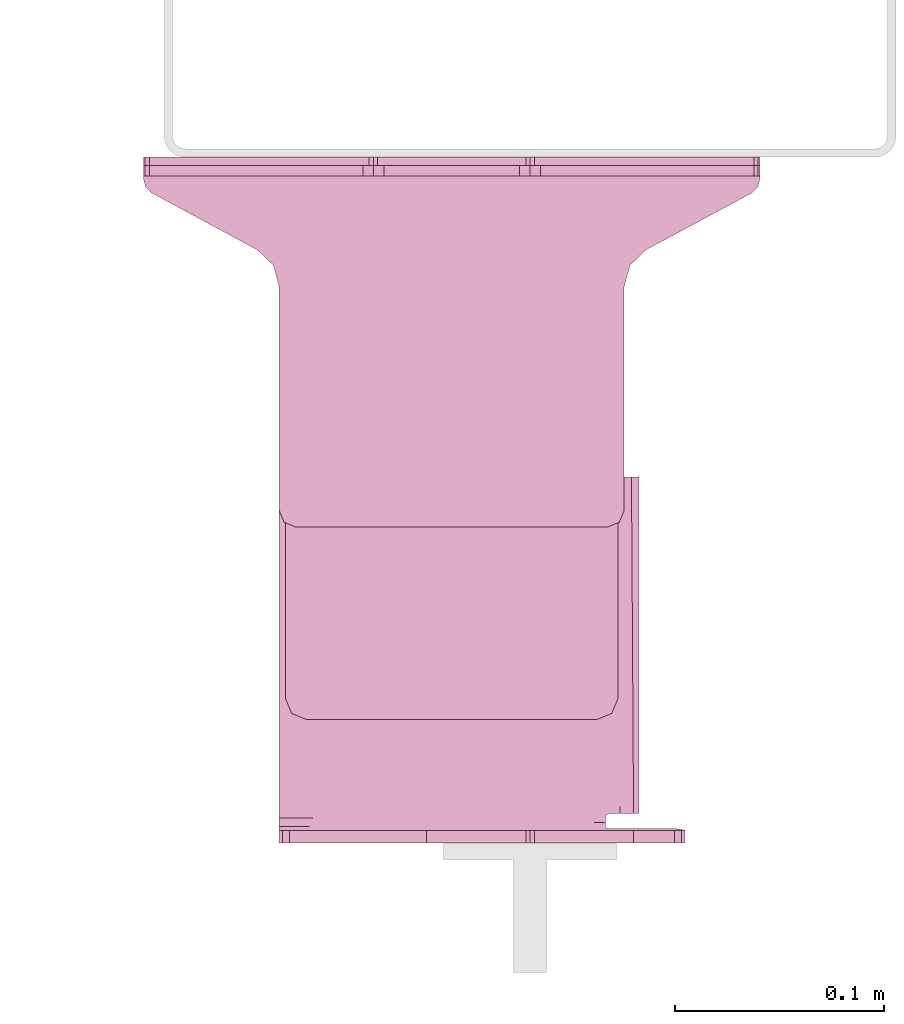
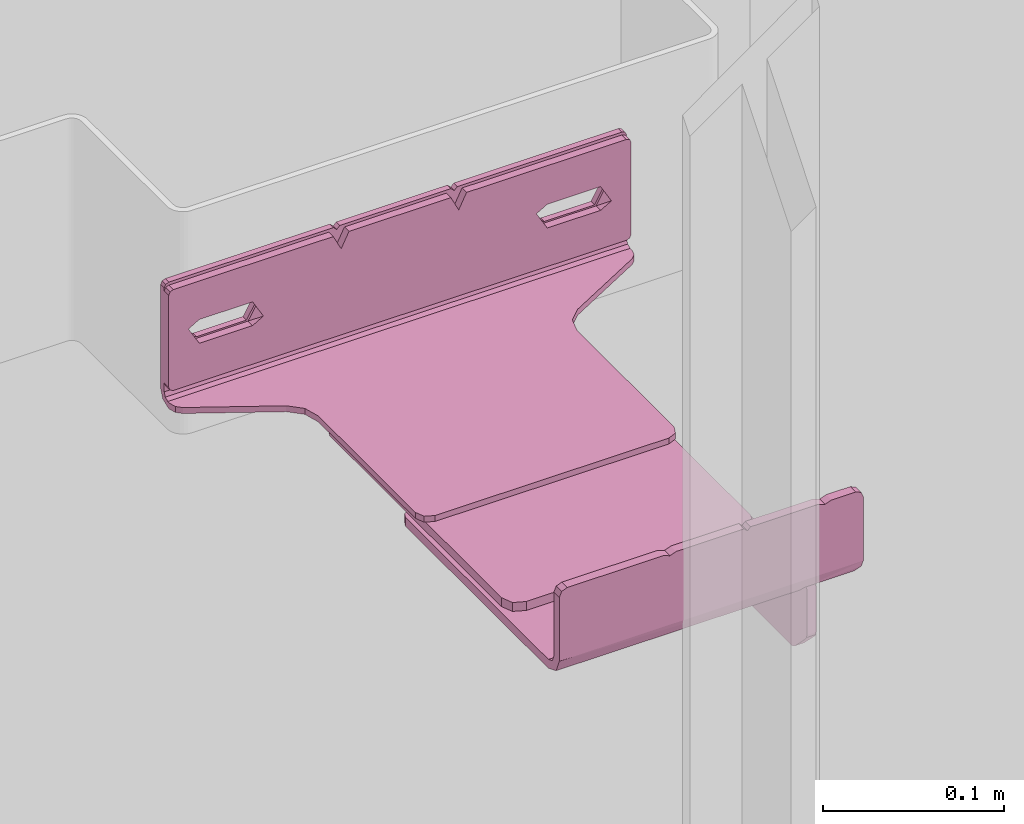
# One storey, part 12 of 14: 1 transport element.
"""IFC2X3 building model written with IfcOpenShell, lengths in millimetres."""

from ifc_helpers import new_model, entity, si_unit, converted_unit, derived_unit, direction, frame, origin, place, context, subcontext, project, spatial, faceted_brep, source, transform, mapped, material, type_object, type_shapes, element, save


model = new_model("IFC2X3")

# Units and contexts
model_context = context("Model", 3, precision=0.01, world=origin(), true_north=direction((6.12303176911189e-17, 1.0)))
body_context = subcontext(model_context, "Body", "Model", "MODEL_VIEW")
ifc_project = project(units=[si_unit("LENGTHUNIT", "METRE", prefix="MILLI"), si_unit("AREAUNIT", "SQUARE_METRE"), si_unit("VOLUMEUNIT", "CUBIC_METRE"), converted_unit("PLANEANGLEUNIT", "DEGREE", entity("IfcRatioMeasure", 0.0174532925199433), si_unit("PLANEANGLEUNIT", "RADIAN"), dimensions=[0, 0, 0, 0, 0, 0, 0]), si_unit("MASSUNIT", "GRAM", prefix="KILO"), derived_unit("MASSDENSITYUNIT", [(si_unit("MASSUNIT", "GRAM", prefix="KILO"), 1), (si_unit("LENGTHUNIT", "METRE"), -3)]), si_unit("TIMEUNIT", "SECOND"), si_unit("FREQUENCYUNIT", "HERTZ"), si_unit("THERMODYNAMICTEMPERATUREUNIT", "DEGREE_CELSIUS"), derived_unit("THERMALTRANSMITTANCEUNIT", [(si_unit("MASSUNIT", "GRAM", prefix="KILO"), 1), (si_unit("THERMODYNAMICTEMPERATUREUNIT", "KELVIN"), -1), (si_unit("TIMEUNIT", "SECOND"), -3)]), derived_unit("VOLUMETRICFLOWRATEUNIT", [(si_unit("LENGTHUNIT", "METRE"), 3), (si_unit("TIMEUNIT", "SECOND"), -1)]), si_unit("ELECTRICCURRENTUNIT", "AMPERE"), si_unit("ELECTRICVOLTAGEUNIT", "VOLT"), si_unit("POWERUNIT", "WATT"), si_unit("FORCEUNIT", "NEWTON", prefix="KILO"), si_unit("ILLUMINANCEUNIT", "LUX"), si_unit("LUMINOUSFLUXUNIT", "LUMEN"), si_unit("LUMINOUSINTENSITYUNIT", "CANDELA"), derived_unit("USERDEFINED", [(si_unit("MASSUNIT", "GRAM", prefix="KILO"), -1), (si_unit("LENGTHUNIT", "METRE"), -2), (si_unit("TIMEUNIT", "SECOND"), 3), (si_unit("LUMINOUSFLUXUNIT", "LUMEN"), 1)]), derived_unit("LINEARVELOCITYUNIT", [(si_unit("LENGTHUNIT", "METRE"), 1), (si_unit("TIMEUNIT", "SECOND"), -1)]), si_unit("PRESSUREUNIT", "PASCAL"), derived_unit("USERDEFINED", [(si_unit("LENGTHUNIT", "METRE"), -2), (si_unit("MASSUNIT", "GRAM", prefix="KILO"), 1), (si_unit("TIMEUNIT", "SECOND"), -2)])], contexts=[model_context])

# Site, building, storey, space
site_placement = place(None, frame((-151.875543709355, 2715.0, 0.0)))
site = spatial("IfcSite", under=ifc_project, at=site_placement, Name="Surface", CompositionType="ELEMENT")
building_placement = place(site_placement, origin())
building = spatial("IfcBuilding", under=site, at=building_placement, CompositionType="ELEMENT")
storey_placement = place(building_placement, frame((0.0, 0.0, 3875.0)))
storey = spatial("IfcBuildingStorey", under=building, at=storey_placement, Name="uus 2 korrus", CompositionType="ELEMENT", Elevation=3875.00000000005)
space_placement = place(storey_placement, origin())
space = spatial("IfcSpace", under=storey, at=space_placement, Name="226a", CompositionType="ELEMENT", InteriorOrExteriorSpace="INTERNAL")

# Transport element
ifc_material = material(Name="Generic")
transport_element_type = type_object("IfcTransportElementType", Name="KONE_Car_Bracket_KM51029396V001_L184-394", material=ifc_material)
shared_shape = source(origin(), body_context, "Body", "Brep", [
    faceted_brep([(69.5952722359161, 67.5952722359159, 70.5952722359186), (72.5242044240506, 67.5952722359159, 63.5242044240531), (72.5242044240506, 61.5952722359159, 63.5242044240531), (69.5952722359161, 61.5952722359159, 70.5952722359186), (79.5952722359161, 67.5952722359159, 60.5952722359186), (79.5952722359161, 61.5952722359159, 60.5952722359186), (218.595272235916, 67.5952722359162, 60.5952722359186), (218.595272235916, 61.5952722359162, 60.5952722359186), (69.5952722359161, 67.5952722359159, 260.595272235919), (72.5242044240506, 67.5952722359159, 267.666340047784), (79.5952722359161, 67.5952722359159, 270.595272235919), (218.595272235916, 67.5952722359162, 270.595272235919), (225.666340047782, 67.5952722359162, 267.666340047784), (228.595272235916, 67.5952722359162, 260.595272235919), (228.595272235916, 67.5952722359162, 70.5952722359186), (225.666340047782, 67.5952722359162, 63.5242044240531), (69.5952722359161, 61.5952722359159, 260.595272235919), (72.5242044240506, 61.5952722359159, 267.666340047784), (79.5952722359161, 61.5952722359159, 270.595272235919), (218.595272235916, 61.5952722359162, 270.595272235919), (225.666340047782, 61.5952722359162, 63.5242044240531), (228.595272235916, 61.5952722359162, 70.5952722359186), (228.595272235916, 61.5952722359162, 260.595272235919), (225.666340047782, 61.5952722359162, 267.666340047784)], [[[0, 1, 2, 3]], [[4, 5, 2, 1]], [[5, 4, 6, 7]], [[4, 1, 0, 8, 9, 10, 11, 12, 13, 14, 15, 6]], [[8, 16, 17, 9]], [[17, 18, 10, 9]], [[11, 10, 18, 19]], [[18, 17, 16, 3, 2, 5, 7, 20, 21, 22, 23, 19]], [[21, 20, 15, 14]], [[7, 6, 15, 20]], [[21, 14, 13, 22]], [[22, 13, 12, 23]], [[12, 11, 19, 23]], [[16, 8, 0, 3]]]),
    faceted_brep([(226.595272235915, 115.595272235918, 1.59527223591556), (230.130806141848, 114.130806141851, 1.59527223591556), (231.595272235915, 110.595272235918, 1.59527223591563), (231.595272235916, 67.595272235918, 1.59527223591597), (37.6284704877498, 67.5952722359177, 1.59527223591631), (37.6035786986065, 67.8824046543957, 1.59527223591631), (37.5952722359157, 68.1704942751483, 1.59527223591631), (37.5952722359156, 110.595272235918, 1.59527223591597), (39.0597383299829, 114.13080614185, 1.5952722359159), (42.5952722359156, 115.595272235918, 1.5952722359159), (57.9419603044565, 115.595272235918, 1.5952722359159), (62.0952722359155, 114.095272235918, 1.5952722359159), (66.2485841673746, 115.595272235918, 1.59527223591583), (109.595272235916, 115.595272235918, 1.59527223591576), (111.595272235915, 113.595272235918, 1.59527223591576), (113.595272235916, 115.595272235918, 1.59527223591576), (156.941960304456, 115.595272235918, 1.5952722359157), (161.095272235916, 114.095272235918, 1.5952722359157), (165.248584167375, 115.595272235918, 1.5952722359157), (37.6284704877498, 67.5952722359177, 3.64034257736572), (37.6284704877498, 67.5952722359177, 5.6854129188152), (37.6284704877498, 67.5952722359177, 7.59527223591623), (37.6035786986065, 67.8824046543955, 7.59527223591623), (37.5952722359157, 68.1704942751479, 7.59527223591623), (71.5952722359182, 55.5952722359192, 176.595272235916), (71.5952722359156, 55.5952722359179, 15.5952722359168), (73.5952722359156, 55.5952722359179, 15.5952722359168), (75.0094857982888, 55.5952722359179, 15.0094857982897), (75.5952722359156, 55.5952722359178, 13.5952722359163), (231.595272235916, 55.5952722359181, 13.595272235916), (231.595272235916, 55.5952722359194, 171.595272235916), (230.130806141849, 55.5952722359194, 175.130806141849), (226.595272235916, 55.5952722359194, 176.595272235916), (65.5952722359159, 3.05973832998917, 163.059738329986), (65.5952722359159, 1.97587457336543, 161.437621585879), (65.5952722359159, 1.59527223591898, 159.524204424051), (65.5952722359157, 1.595272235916, 32.6663400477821), (65.5952722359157, 1.97587457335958, 30.7529228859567), (65.5952722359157, 3.05973832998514, 29.1308061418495), (65.5952722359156, 15.1308061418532, 17.059738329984), (65.5952722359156, 16.7529228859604, 15.9758745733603), (65.5952722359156, 18.6663400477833, 15.5952722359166), (65.5952722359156, 28.0200501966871, 15.5952722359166), (65.5952722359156, 49.5952722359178, 15.5952722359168), (65.5952722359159, 49.5952722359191, 176.595272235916), (65.5952722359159, 18.6663400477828, 176.595272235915), (65.5952722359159, 16.7529228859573, 176.214669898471), (65.5952722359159, 15.1308061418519, 175.130806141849), (73.5952722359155, 61.2271358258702, 3.42439033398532), (231.595272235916, 59.1099908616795, 5.10999086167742), (38.6343353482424, 63.9007995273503, 2.17814162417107), (42.5952722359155, 61.2271358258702, 3.42439033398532), (40.5251798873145, 62.6244645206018, 2.77306717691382), (75.5952722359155, 56.4480658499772, 9.15232391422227), (75.5952722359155, 58.8852372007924, 5.34086191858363), (75.3788802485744, 59.5653943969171, 4.72983140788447), (75.1394379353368, 60.3180027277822, 4.05371321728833), (74.3673550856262, 60.7725692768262, 3.73905177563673), (66.8515457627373, 53.2691066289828, 15.5952722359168), (67.352631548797, 53.8379129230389, 176.595272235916), (70.0942919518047, 55.4044940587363, 15.5952722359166), (70.8387442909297, 55.547386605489, 15.5952722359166), (37.5952722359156, 110.595272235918, 7.59527223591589), (39.0597383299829, 114.13080614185, 7.59527223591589), (42.5952722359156, 115.595272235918, 7.59527223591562), (231.595272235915, 110.595272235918, 7.59527223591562), (231.595272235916, 67.5952722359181, 7.59527223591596), (231.595272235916, 63.3526315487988, 9.35263154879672), (231.595272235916, 61.5952722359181, 13.595272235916), (231.595272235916, 61.5952722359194, 171.595272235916), (226.595272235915, 115.595272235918, 7.59527223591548), (230.130806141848, 114.130806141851, 7.59527223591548), (156.941960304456, 115.595272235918, 7.59527223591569), (113.595272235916, 115.595272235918, 7.59527223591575), (165.248584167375, 115.595272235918, 7.59527223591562), (109.595272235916, 115.595272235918, 7.59527223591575), (66.2485841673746, 115.595272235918, 7.59527223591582), (57.9419603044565, 115.595272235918, 7.59527223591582), (161.095272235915, 114.095272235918, 7.59527223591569), (111.595272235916, 113.595272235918, 7.59527223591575), (62.0952722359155, 114.095272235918, 7.59527223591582), (71.5952722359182, 58.5952722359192, 176.595272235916), (226.595272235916, 61.5952722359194, 176.595272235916), (71.5952722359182, 61.5952722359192, 176.595272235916), (63.1099908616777, 58.0805536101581, 176.595272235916), (59.5952722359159, 49.5952722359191, 176.595272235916), (59.5952722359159, 18.6663400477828, 176.595272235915), (230.130806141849, 61.5952722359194, 175.130806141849), (59.595272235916, 18.6663400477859, 15.5952722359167), (59.5952722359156, 16.7529228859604, 15.9758745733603), (59.5952722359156, 15.1308061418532, 17.059738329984), (59.5952722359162, 3.05973832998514, 29.1308061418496), (59.5952722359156, 1.595272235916, 32.6663400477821), (59.5952722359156, 1.97587457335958, 30.7529228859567), (59.5952722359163, 1.595272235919, 159.524204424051), (59.5952722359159, 1.9758745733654, 161.437621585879), (59.5952722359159, 3.05973832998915, 163.059738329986), (59.5952722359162, 15.1308061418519, 175.130806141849), (59.5952722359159, 16.7529228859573, 176.214669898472), (75.0094857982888, 61.5952722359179, 15.0094857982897), (73.5952722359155, 61.5952722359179, 15.5952722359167), (71.5952722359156, 61.5952722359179, 15.5952722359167), (75.5952722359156, 61.5952722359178, 13.5952722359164), (59.5952722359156, 49.5952722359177, 15.5952722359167), (59.5952722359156, 28.020050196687, 15.5952722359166), (73.5952722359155, 64.4112040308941, 8.50983128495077), (38.4171758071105, 66.5517977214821, 7.81905066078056), (39.488083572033, 65.1349631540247, 8.12289805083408), (42.5952722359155, 64.411204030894, 8.50983128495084), (75.5952722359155, 62.0216690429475, 11.3737980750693), (75.5952722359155, 63.2402547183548, 9.46806707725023), (74.9122724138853, 64.0993270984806, 8.71896547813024), (62.1078192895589, 56.9429410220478, 15.5952722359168), (68.5933116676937, 61.2137158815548, 15.5952722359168), (70.0822163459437, 61.4995009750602, 15.5952722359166), (62.5952722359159, 28.0200501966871, 15.5952722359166), (62.5952722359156, 49.5952722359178, 15.5952722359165), (69.3438018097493, 58.3091049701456, 15.5952722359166), (42.5952722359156, 62.2884918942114, 5.11953731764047), (73.5952722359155, 62.0082462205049, 4.67194237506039), (73.5952722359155, 63.3498479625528, 6.81468430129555), (42.5952722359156, 63.3498479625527, 6.81468430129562), (75.5952722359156, 62.1682703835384, 8.4521585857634), (75.5952722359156, 60.3369097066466, 6.71659697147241), (75.1773020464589, 61.9854684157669, 6.33178978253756), (74.5576725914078, 63.018129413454, 6.77008166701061), (75.1888796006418, 62.9910249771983, 7.65785437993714), (74.4643994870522, 62.0836404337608, 5.26641717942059), (40.6636232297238, 63.0740749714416, 5.51840929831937), (38.7335158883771, 65.1496559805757, 6.42524138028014), (38.8110475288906, 64.4780716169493, 4.79301723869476), (40.5644467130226, 63.980378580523, 7.05454162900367)], [[[0, 1, 2, 3, 4, 5, 6, 7, 8, 9, 10, 11, 12, 13, 14, 15, 16, 17, 18]], [[19, 20, 21, 22, 5, 4]], [[22, 23, 6, 5]], [[24, 25, 26, 27, 28, 29, 30, 31, 32]], [[33, 34, 35, 36, 37, 38, 39, 40, 41, 42, 43, 44, 45, 46, 47]], [[3, 48, 4]], [[48, 3, 49]], [[48, 50, 4]], [[48, 51, 52, 50]], [[49, 29, 53]], [[53, 29, 28]], [[49, 53, 54]], [[49, 54, 55, 56]], [[49, 56, 57, 48]], [[58, 59, 44]], [[44, 43, 58]], [[58, 60, 59]], [[61, 24, 60]], [[59, 60, 24]], [[24, 61, 25]], [[7, 62, 63, 8]], [[63, 64, 9, 8]], [[6, 23, 62, 7]], [[65, 66, 67, 68, 69, 30, 29, 49, 3, 2]], [[0, 70, 71, 1]], [[71, 65, 2, 1]], [[72, 16, 15, 73]], [[0, 18, 74, 70]], [[75, 13, 12, 76]], [[10, 9, 64, 77]], [[17, 78, 74, 18]], [[16, 72, 78, 17]], [[15, 14, 79, 73]], [[75, 79, 14, 13]], [[11, 80, 76, 12]], [[10, 77, 80, 11]], [[81, 32, 82]], [[32, 81, 24]], [[81, 82, 83]], [[59, 24, 81]], [[83, 84, 81]], [[81, 84, 59]], [[84, 85, 59]], [[59, 85, 44]], [[85, 45, 44]], [[45, 85, 86]], [[30, 69, 87, 31]], [[87, 82, 32, 31]], [[88, 41, 40, 89]], [[40, 39, 90, 89]], [[39, 38, 91, 90]], [[36, 92, 93, 37]], [[93, 91, 38, 37]], [[94, 92, 36, 35]], [[94, 35, 34, 95]], [[34, 33, 96, 95]], [[97, 96, 33, 47]], [[45, 86, 98, 46]], [[98, 97, 47, 46]], [[66, 65, 71, 70, 74, 78, 72, 73, 79, 75, 76, 80, 77, 64, 63, 62, 23, 22, 21]], [[99, 100, 101, 83, 82, 87, 69, 68, 102]], [[94, 95, 96, 97, 98, 86, 85, 103, 104, 88, 89, 90, 91, 93, 92]], [[21, 105, 66]], [[67, 66, 105]], [[105, 21, 106, 107]], [[108, 105, 107]], [[109, 68, 67]], [[102, 68, 109]], [[110, 109, 67]], [[67, 111, 110]], [[105, 111, 67]], [[85, 84, 112]], [[112, 103, 85]], [[84, 113, 112]], [[113, 83, 114]], [[83, 113, 84]], [[101, 114, 83]], [[115, 88, 104]], [[88, 115, 41]], [[42, 41, 115]], [[115, 104, 103]], [[116, 115, 103]], [[116, 43, 115]], [[42, 115, 43]], [[43, 116, 58]], [[112, 116, 103]], [[112, 58, 116]], [[58, 112, 117]], [[117, 112, 113]], [[114, 117, 113]], [[101, 117, 114]], [[25, 117, 101]], [[25, 101, 100]], [[100, 26, 25]], [[61, 117, 25]], [[60, 117, 61]], [[117, 60, 58]], [[118, 51, 48, 119, 120, 105, 108, 121]], [[54, 53, 28, 102, 109, 110, 122, 123]], [[56, 55, 124]], [[120, 125, 105]], [[126, 122, 110]], [[124, 123, 122]], [[55, 123, 124]], [[125, 124, 126]], [[127, 57, 56]], [[124, 125, 127]], [[127, 119, 57]], [[105, 125, 111]], [[119, 127, 120]], [[127, 125, 120]], [[124, 127, 56]], [[119, 48, 57]], [[111, 125, 126]], [[111, 126, 110]], [[126, 124, 122]], [[55, 54, 123]], [[99, 27, 26, 100]], [[102, 28, 27, 99]], [[128, 118, 121]], [[20, 129, 106]], [[52, 118, 128]], [[52, 130, 50]], [[128, 121, 131]], [[131, 130, 128]], [[19, 130, 20]], [[129, 131, 107]], [[50, 19, 4]], [[50, 130, 19]], [[20, 106, 21]], [[107, 131, 108]], [[52, 128, 130]], [[129, 107, 106]], [[129, 20, 130]], [[52, 51, 118]], [[131, 129, 130]], [[108, 131, 121]]]),
    faceted_brep([(66.5952722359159, 67.5952722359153, 160.595272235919), (68.9384179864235, 67.5952722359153, 154.938417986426), (74.5952722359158, 67.5952722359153, 152.595272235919), (223.595272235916, 67.5952722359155, 152.595272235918), (229.252126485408, 67.5952722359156, 154.938417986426), (231.595272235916, 67.5952722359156, 160.595272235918), (231.595272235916, 67.5952722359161, 267.64939060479), (233.010111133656, 67.5952722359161, 272.777256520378), (234.424950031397, 67.5952722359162, 277.905122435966), (238.629284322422, 67.5952722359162, 281.92646242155), (242.113275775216, 67.5952722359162, 285.258812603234), (292.388070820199, 67.5952722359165, 312.329856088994), (295.463401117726, 67.5952722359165, 315.271332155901), (296.595272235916, 67.5952722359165, 319.37362488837), (296.595272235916, 67.5952722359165, 321.595272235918), (1.59527223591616, 67.595272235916, 321.595272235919), (1.59527223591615, 67.595272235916, 319.37362488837), (2.72714335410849, 67.595272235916, 315.2713321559), (5.80247365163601, 67.5952722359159, 312.329856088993), (56.0772686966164, 67.5952722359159, 285.258812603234), (59.9214315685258, 67.5952722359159, 281.5819675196), (63.7655944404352, 67.5952722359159, 277.905122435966), (65.3129939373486, 67.5952722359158, 272.296811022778), (66.595272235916, 67.5952722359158, 267.64939060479), (296.595272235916, 145.595272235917, 329.595272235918), (295.716592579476, 147.716592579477, 329.595272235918), (293.595272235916, 148.595272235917, 329.595272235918), (276.095272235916, 123.595272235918, 329.595272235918), (283.889500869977, 110.095272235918, 329.595272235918), (296.595272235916, 75.5952722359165, 329.595272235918), (244.095272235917, 123.595272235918, 329.595272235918), (188.595272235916, 148.595272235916, 329.595272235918), (236.301043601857, 119.095272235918, 329.595272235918), (186.595272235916, 146.595272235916, 329.595272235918), (244.095272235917, 105.595272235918, 329.595272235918), (61.8895008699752, 110.095272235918, 329.595272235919), (111.595272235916, 146.595272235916, 329.595272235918), (184.595272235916, 148.595272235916, 329.595272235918), (113.595272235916, 148.595272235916, 329.595272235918), (109.595272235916, 148.595272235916, 329.595272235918), (54.0952722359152, 123.595272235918, 329.595272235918), (4.59527223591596, 148.595272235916, 329.595272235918), (22.0952722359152, 123.595272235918, 329.595272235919), (1.59527223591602, 145.595272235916, 329.595272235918), (2.47395189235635, 147.716592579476, 329.595272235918), (14.3010436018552, 119.095272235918, 329.595272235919), (1.59527223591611, 75.595272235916, 329.595272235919), (22.0952722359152, 105.595272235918, 329.595272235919), (54.0952722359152, 105.595272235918, 329.595272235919), (276.095272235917, 105.595272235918, 329.595272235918), (296.595272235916, 69.9384179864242, 327.252126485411), (1.59527223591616, 69.9384179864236, 327.252126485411), (1.59527223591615, 72.7668451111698, 324.423699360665), (296.595272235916, 72.7668451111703, 324.423699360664), (296.595272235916, 71.5952722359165, 321.595272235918), (1.59527223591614, 71.595272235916, 321.595272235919), (1.59527223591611, 75.595272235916, 325.595272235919), (296.595272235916, 75.5952722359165, 325.595272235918), (1.59527223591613, 71.595272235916, 319.37362488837), (1.59527223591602, 145.595272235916, 325.595272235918), (296.595272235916, 71.5952722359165, 319.37362488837), (296.595272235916, 145.595272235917, 325.595272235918), (242.113275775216, 71.5952722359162, 285.258812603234), (292.388070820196, 71.5952722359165, 312.329856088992), (231.595272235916, 71.5952722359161, 267.64939060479), (233.010111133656, 71.5952722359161, 272.777256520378), (234.424950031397, 71.5952722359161, 277.905122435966), (238.269112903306, 71.5952722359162, 281.5819675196), (231.595272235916, 71.5952722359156, 160.595272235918), (223.595272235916, 71.5952722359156, 152.595272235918), (229.252126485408, 71.5952722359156, 154.938417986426), (74.5952722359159, 71.5952722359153, 152.595272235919), (66.5952722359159, 71.5952722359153, 160.595272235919), (68.9384179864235, 71.5952722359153, 154.938417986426), (66.5952722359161, 71.5952722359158, 267.64939060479), (56.0772686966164, 71.5952722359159, 285.258812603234), (59.9214315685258, 71.5952722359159, 281.5819675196), (63.7655944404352, 71.5952722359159, 277.905122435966), (65.1804333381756, 71.5952722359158, 272.777256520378), (5.802473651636, 71.5952722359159, 312.329856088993), (2.72714335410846, 71.595272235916, 315.2713321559), (295.463401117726, 71.5952722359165, 315.271332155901), (276.095272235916, 105.595272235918, 325.595272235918), (244.095272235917, 105.595272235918, 325.595272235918), (54.0952722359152, 105.595272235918, 325.595272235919), (22.0952722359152, 105.595272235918, 325.595272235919), (283.889500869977, 110.095272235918, 325.595272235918), (276.095272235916, 123.595272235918, 325.595272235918), (244.095272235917, 123.595272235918, 325.595272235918), (22.0952722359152, 123.595272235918, 325.595272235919), (54.0952722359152, 123.595272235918, 325.595272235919), (236.301043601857, 119.095272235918, 325.595272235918), (14.3010436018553, 119.095272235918, 325.595272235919), (61.8895008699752, 110.095272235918, 325.595272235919), (293.595272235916, 148.595272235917, 325.595272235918), (295.716592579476, 147.716592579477, 325.595272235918), (188.595272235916, 148.595272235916, 325.595272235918), (4.59527223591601, 148.595272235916, 325.595272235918), (2.47395189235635, 147.716592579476, 325.595272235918), (109.595272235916, 148.595272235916, 325.595272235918), (111.595272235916, 146.595272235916, 325.595272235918), (186.595272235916, 146.595272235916, 325.595272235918), (184.595272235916, 148.595272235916, 325.595272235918), (113.595272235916, 148.595272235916, 325.595272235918)], [[[0, 1, 2, 3, 4, 5, 6, 7, 8, 9, 10, 11, 12, 13, 14, 15, 16, 17, 18, 19, 20, 21, 22, 23]], [[24, 25, 26]], [[27, 24, 26]], [[27, 28, 24]], [[28, 29, 24]], [[27, 26, 30]], [[26, 31, 30]], [[32, 30, 31]], [[33, 32, 31]], [[32, 33, 34]], [[33, 35, 34]], [[36, 35, 33]], [[33, 37, 36]], [[38, 36, 37]], [[35, 36, 39]], [[40, 35, 39]], [[40, 39, 41]], [[40, 41, 42]], [[42, 41, 43]], [[41, 44, 43]], [[45, 42, 43]], [[45, 43, 46]], [[29, 34, 46]], [[46, 47, 45]], [[47, 46, 48]], [[48, 46, 34]], [[49, 34, 29]], [[35, 48, 34]], [[49, 29, 28]], [[15, 14, 50, 51]], [[50, 29, 46, 51]], [[52, 53, 54, 55]], [[56, 57, 53, 52]], [[52, 55, 58, 16, 15, 51, 46, 43, 59, 56]], [[14, 13, 60, 54, 53, 57, 61, 24, 29, 50]], [[10, 62, 63, 11]], [[64, 65, 66, 8, 7, 6]], [[66, 67, 62, 10, 9, 8]], [[5, 68, 64, 6]], [[3, 69, 70, 4]], [[70, 68, 5, 4]], [[2, 71, 69, 3]], [[0, 72, 73, 1]], [[73, 71, 2, 1]], [[74, 72, 0, 23]], [[75, 76, 77, 21, 20, 19]], [[77, 78, 74, 23, 22, 21]], [[18, 79, 75, 19]], [[16, 58, 80, 17]], [[80, 79, 18, 17]], [[11, 63, 81, 12]], [[81, 60, 13, 12]], [[74, 78, 77, 76, 75, 79, 80, 58, 55, 54, 60, 81, 63, 62, 67, 66, 65, 64, 68, 70, 69, 71, 73, 72]], [[49, 82, 83, 34]], [[48, 84, 85, 47]], [[28, 86, 82, 49]], [[27, 87, 86, 28]], [[30, 88, 87, 27]], [[42, 89, 90, 40]], [[32, 91, 88, 30]], [[34, 83, 91, 32]], [[45, 92, 89, 42]], [[47, 85, 92, 45]], [[35, 93, 84, 48]], [[40, 90, 93, 35]], [[94, 95, 61]], [[94, 61, 87]], [[88, 94, 87]], [[88, 96, 94]], [[61, 86, 87]], [[61, 57, 86]], [[86, 57, 82]], [[57, 83, 82]], [[56, 83, 57]], [[83, 56, 84]], [[84, 56, 85]], [[92, 85, 56]], [[56, 59, 92]], [[59, 89, 92]], [[59, 97, 89]], [[59, 98, 97]], [[89, 97, 90]], [[97, 99, 90]], [[99, 93, 90]], [[99, 100, 93]], [[101, 93, 100]], [[100, 102, 101]], [[102, 100, 103]], [[96, 91, 101]], [[83, 101, 91]], [[83, 93, 101]], [[96, 88, 91]], [[83, 84, 93]], [[39, 99, 97, 41]], [[94, 96, 31, 26]], [[102, 103, 38, 37]], [[36, 38, 103, 100]], [[101, 102, 37, 33]], [[33, 31, 96, 101]], [[100, 99, 39, 36]], [[41, 97, 98, 44]], [[98, 59, 43, 44]], [[24, 61, 95, 25]], [[95, 94, 26, 25]]]),
    faceted_brep([(293.595272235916, 146.595272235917, 320.595272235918), (295.716592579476, 145.716592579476, 320.595272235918), (296.595272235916, 143.595272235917, 320.595272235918), (277.095272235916, 120.595272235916, 320.595272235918), (243.095272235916, 120.595272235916, 320.595272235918), (191.595272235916, 146.595272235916, 320.595272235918), (284.023475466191, 116.595272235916, 320.595272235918), (296.595272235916, 81.5952722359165, 320.595272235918), (277.095272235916, 104.595272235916, 320.595272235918), (293.595272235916, 78.5952722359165, 320.595272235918), (295.716592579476, 79.4739518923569, 320.595272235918), (243.095272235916, 104.595272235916, 320.595272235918), (4.59527223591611, 78.595272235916, 320.595272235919), (55.0952722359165, 104.595272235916, 320.595272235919), (21.0952722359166, 104.595272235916, 320.595272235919), (1.59527223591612, 81.595272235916, 320.595272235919), (2.47395189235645, 79.4739518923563, 320.595272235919), (14.1670690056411, 108.595272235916, 320.595272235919), (1.595272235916, 143.595272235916, 320.595272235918), (21.0952722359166, 120.595272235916, 320.595272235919), (4.595272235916, 146.595272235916, 320.595272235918), (2.47395189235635, 145.716592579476, 320.595272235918), (55.0952722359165, 120.595272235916, 320.595272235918), (106.595272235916, 146.595272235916, 320.595272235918), (62.0234754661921, 116.595272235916, 320.595272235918), (111.595272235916, 136.595272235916, 320.595272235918), (236.16706900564, 108.595272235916, 320.595272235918), (186.595272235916, 136.595272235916, 320.595272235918), (116.595272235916, 146.595272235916, 320.595272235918), (181.595272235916, 146.595272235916, 320.595272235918), (296.595272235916, 143.595272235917, 325.595272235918), (295.716592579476, 145.716592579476, 325.595272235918), (293.595272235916, 146.595272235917, 325.595272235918), (277.095272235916, 120.595272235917, 325.595272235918), (284.023475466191, 108.595272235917, 325.595272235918), (296.595272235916, 81.5952722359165, 325.595272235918), (243.095272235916, 120.595272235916, 325.595272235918), (191.595272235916, 146.595272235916, 325.595272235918), (236.16706900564, 116.595272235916, 325.595272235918), (186.595272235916, 136.595272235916, 325.595272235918), (243.095272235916, 104.595272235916, 325.595272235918), (62.023475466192, 108.595272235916, 325.595272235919), (111.595272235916, 136.595272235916, 325.595272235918), (116.595272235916, 146.595272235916, 325.595272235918), (181.595272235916, 146.595272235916, 325.595272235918), (106.595272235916, 146.595272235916, 325.595272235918), (55.0952722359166, 120.595272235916, 325.595272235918), (4.59527223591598, 146.595272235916, 325.595272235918), (21.0952722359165, 120.595272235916, 325.595272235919), (1.59527223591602, 143.595272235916, 325.595272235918), (2.47395189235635, 145.716592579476, 325.595272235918), (14.1670690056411, 116.595272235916, 325.595272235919), (1.5952722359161, 81.595272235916, 325.595272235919), (21.0952722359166, 104.595272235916, 325.595272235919), (4.59527223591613, 78.595272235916, 325.595272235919), (2.47395189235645, 79.4739518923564, 325.595272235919), (293.595272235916, 78.5952722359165, 325.595272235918), (55.0952722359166, 104.595272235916, 325.595272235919), (277.095272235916, 104.595272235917, 325.595272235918), (295.716592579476, 79.4739518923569, 325.595272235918)], [[[0, 1, 2]], [[3, 0, 2]], [[3, 4, 0]], [[4, 5, 0]], [[6, 3, 2]], [[2, 7, 6]], [[8, 6, 7]], [[8, 7, 9]], [[7, 10, 9]], [[9, 11, 8]], [[12, 11, 9]], [[11, 12, 13]], [[12, 14, 13]], [[14, 12, 15]], [[15, 12, 16]], [[17, 14, 15]], [[18, 17, 15]], [[17, 18, 19]], [[20, 19, 18]], [[18, 21, 20]], [[20, 22, 19]], [[22, 20, 23]], [[23, 24, 22]], [[23, 25, 24]], [[25, 13, 24]], [[26, 13, 25]], [[25, 27, 26]], [[27, 25, 28]], [[27, 28, 29]], [[27, 5, 26]], [[5, 4, 26]], [[13, 26, 11]], [[30, 31, 32]], [[30, 32, 33]], [[30, 33, 34]], [[34, 35, 30]], [[32, 36, 33]], [[32, 37, 36]], [[38, 36, 37]], [[38, 37, 39]], [[38, 39, 40]], [[39, 41, 40]], [[41, 39, 42]], [[43, 42, 39]], [[44, 43, 39]], [[41, 42, 45]], [[46, 41, 45]], [[45, 47, 46]], [[48, 46, 47]], [[49, 48, 47]], [[47, 50, 49]], [[48, 49, 51]], [[52, 51, 49]], [[52, 53, 51]], [[52, 54, 53]], [[55, 54, 52]], [[56, 40, 54]], [[57, 53, 54]], [[57, 54, 40]], [[58, 40, 56]], [[57, 40, 41]], [[56, 35, 58]], [[56, 59, 35]], [[35, 34, 58]], [[54, 12, 9, 56]], [[7, 2, 30, 35]], [[32, 0, 5, 37]], [[44, 29, 28, 43]], [[45, 23, 20, 47]], [[52, 49, 18, 15]], [[7, 35, 59, 10]], [[59, 56, 9, 10]], [[0, 32, 31, 1]], [[31, 30, 2, 1]], [[18, 49, 50, 21]], [[50, 47, 20, 21]], [[12, 54, 55, 16]], [[55, 52, 15, 16]], [[58, 34, 8]], [[6, 8, 34]], [[33, 3, 6]], [[34, 33, 6]], [[4, 3, 33, 36]], [[48, 19, 22, 46]], [[36, 38, 4]], [[26, 4, 38]], [[40, 11, 26]], [[38, 40, 26]], [[8, 11, 40, 58]], [[13, 14, 53, 57]], [[57, 41, 13]], [[24, 13, 41]], [[46, 22, 24]], [[41, 46, 24]], [[48, 51, 19]], [[17, 19, 51]], [[53, 14, 17]], [[51, 53, 17]], [[39, 37, 5, 27]], [[27, 29, 44, 39]], [[43, 28, 25, 42]], [[23, 45, 42, 25]]]),
])
type_shapes(transport_element_type, [shared_shape])
transport_element_placement = place(space_placement, frame((30868.2130393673, 21295.4047279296, 1725.40495016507), z_axis=(0.0, 1.0, 0.0), x_axis=(-1.0, 0.0, 0.0)))
element("IfcTransportElement", 1, at=transport_element_placement, inside=space, type_object=transport_element_type, material=ifc_material, Name="KONE_Car_Bracket_KM51029396V001_L184-394:KONE_Car_Bracket_KM51029396V001_L184-394", ObjectType="KONE_Car_Bracket_KM51029396V001_L184-394", CapacityByNumber=0.0, CapacityByWeight=0.0, OperationType="ELEVATOR", context=body_context, shape_type="MappedRepresentation", body=[
    mapped(shared_shape, transform((0.0, 0.0, 0.0), scale=1.0)),
])

save(model, "model.ifc")
